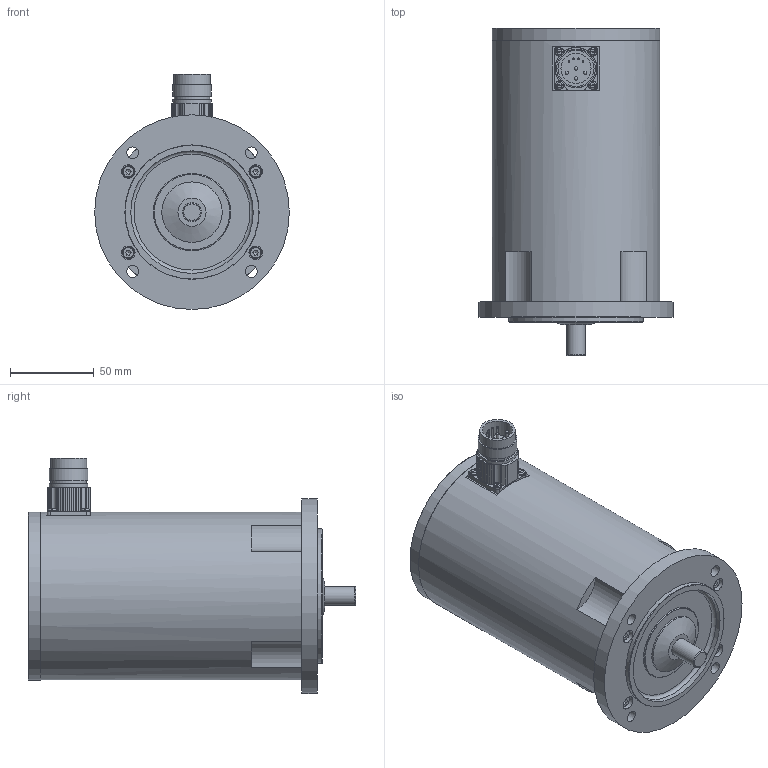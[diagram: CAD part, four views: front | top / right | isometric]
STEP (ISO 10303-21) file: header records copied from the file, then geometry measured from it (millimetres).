
FILE_DESCRIPTION(/* description */ (''),/* implementation_level */ '2;1');
FILE_NAME(/* name */ 'ksa_3x8e',/* time_stamp */ '2007-03-13T09:37:39+01:00',/* author */ (''),/* organization */ (''),/* preprocessor_version */ 'ST-DEVELOPER v8',/* originating_system */ 'UNIGRAPHICS SOLUTIONS - UNIGRAPHICS 18.0',/* authorisation */ '');
FILE_SCHEMA (('AUTOMOTIVE_DESIGN { 1 2 10303 214 0 1 1 1 }'));
Length unit declared in the file: millimetre
Products named in the file (10): din912-m4x12_A; iso1580-m2.5x6_A; 06331101_0; DIN3760_org_A15x30x7_0; 014260_0; 113045_0; Rotor_SA 34.. E_0; 113044_0; Gehaeuse SA 34.. E_0; KSA328_E_0
Assembly tree (19 placements, depth 2):
  KSA328_E_0
    Gehaeuse SA 34.. E_0
    113044_0
    Rotor_SA 34.. E_0
    113045_0
    014260_0
    DIN3760_org_A15x30x7_0
    06331101_0
    iso1580-m2.5x6_A  x4
    din912-m4x12_A  x8
Bounding box: 116 x 195 x 140 mm (x, y, z)
Volume: 602820.6 mm3; surface area: 165262.6 mm2
Topology: 19 solids, 19 shells, 458 faces, 1035 edges, 652 vertices
Faces by surface type: plane 214, cylinder 159, cone 45, torus 32, sphere 8
Full cylindrical faces by diameter (mm): 1 x4, 1.948 x4, 2 x4, 2.5 x4, 2.7 x4, 3 x8, 4 x8, 4.5 x8, 7 x12, 8 x8, 10.52 x1, 10.9 x1, 11 x1, 15 x2, 15.5 x1, 18 x1, 20 x2, 21 x1, 21.5 x1, 22 x1, 23 x2, 25 x1, 27 x1, 30 x3, 32 x1, 35 x1, 36 x1, 45 x1, 73 x1, 74 x1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
Entity records: 7263 total; most frequent: DIRECTION 1358, CARTESIAN_POINT 1193, ORIENTED_EDGE 910, AXIS2_PLACEMENT_3D 620, EDGE_LOOP 464, EDGE_CURVE 455, VERTEX_POINT 360, CIRCLE 332
